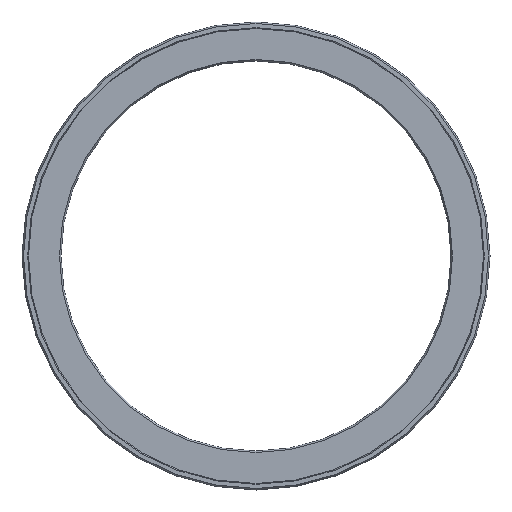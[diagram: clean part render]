
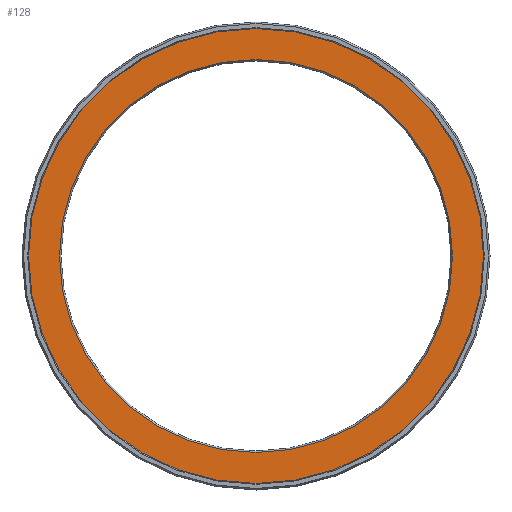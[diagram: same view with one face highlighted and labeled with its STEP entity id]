
A CAD part, left-side view. The second image highlights one B-rep face of the part: STEP entity #128.
In plain terms, the highlighted planar face has unit normal (-1, 0, 0).
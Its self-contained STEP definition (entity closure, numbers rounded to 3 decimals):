
#112=PLANE('',#329);
#128=ADVANCED_FACE('',(#163,#164),#112,.T.);
#163=FACE_BOUND('',#199,.T.);
#164=FACE_BOUND('',#200,.T.);
#199=EDGE_LOOP('',(#235));
#200=EDGE_LOOP('',(#236));
#235=ORIENTED_EDGE('',*,*,#276,.T.);
#236=ORIENTED_EDGE('',*,*,#275,.F.);
#257=VERTEX_POINT('',#454);
#258=VERTEX_POINT('',#457);
#275=EDGE_CURVE('',#257,#257,#293,.T.);
#276=EDGE_CURVE('',#258,#258,#294,.T.);
#293=CIRCLE('',#326,87.5);
#294=CIRCLE('',#328,75.577);
#326=AXIS2_PLACEMENT_3D('',#453,#394,#395);
#328=AXIS2_PLACEMENT_3D('',#456,#398,#399);
#329=AXIS2_PLACEMENT_3D('',#458,#400,#401);
#394=DIRECTION('',(1.,0.,0.));
#395=DIRECTION('',(0.,0.,-1.));
#398=DIRECTION('',(1.,0.,0.));
#399=DIRECTION('',(0.,0.,1.));
#400=DIRECTION('',(-1.,0.,0.));
#401=DIRECTION('',(0.,0.,1.));
#453=CARTESIAN_POINT('',(0.,0.,0.));
#454=CARTESIAN_POINT('',(0.,0.,-87.5));
#456=CARTESIAN_POINT('',(0.,0.,0.));
#457=CARTESIAN_POINT('',(0.,0.,75.577));
#458=CARTESIAN_POINT('',(0.,87.5,0.));
